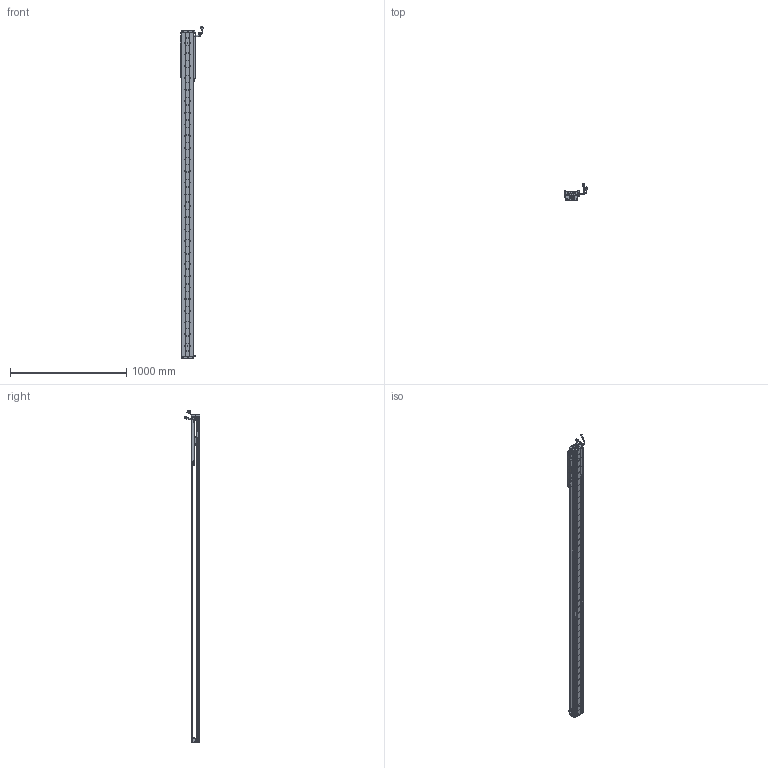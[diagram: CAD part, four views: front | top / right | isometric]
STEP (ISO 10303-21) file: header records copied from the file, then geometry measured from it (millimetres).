
FILE_DESCRIPTION (( 'STEP AP203' ), '1' );
FILE_NAME ('Z5-RY100D-1-L500-B-K.SLDASM_2350.step', '2021-05-17T03:34:52', ( '盈信电脑' ), ( '东莞市道滘镇水果街19号' ), 'SwSTEP 2.0', 'SolidWorks 2016', '' );
FILE_SCHEMA (( 'CONFIG_CONTROL_DESIGN' ));
Length unit declared in the file: millimetre
Products named in the file (36): Z-100詩湍傷裔啣; Z-RY100D詩湍奻揤裔; HARNESS-Part-1; HARNESS; SEAL-Part-1; LABEL-Part-1; SCREW-M1.6-2; 080黍杅芛假蚾釱21遴; COVER; 140蚥薯蝶輸; SCREW-M1.7-1; 榋妏寠巭燃_暯_M2_2; HOLDER0; SCREW-M1.7; SCREW-M1.6-1; SCALE; PBU_SHEET; Z5-RY100铝滑块（21款）; HARNESS-Part-2; 覜茼ん672; SEAL; Z-RY100D覜茼んえ; 100-Z-臏賑輸盄裔(21遴); SCREW-M1.6-3; LABEL; SCREW-M1.6; Z-RY100D詩湍狟揤裔; SHIELDPLATE; COVER-Part-1; 140雄赽晤鎢ん堤盄; Z5-RY100D-1-L500-B-K.SLDASM_2350; Z5-RY100-L500詩湍90mm遵_2350; SCALE-Part-1; Z5-RY100D-500-倰第菁釱_2350; PSLH080_PSLF2; SCALE-Part-2
Assembly tree (43 placements, depth 4):
  Z5-RY100D-1-L500-B-K.SLDASM_2350
    Z5-RY100D-500-倰第菁釱_2350
    Z5-RY100铝滑块（21款）
    PSLH080_PSLF2
      SCALE
        SCALE-Part-1
        SCALE-Part-2
      HARNESS
        HARNESS-Part-1
        HARNESS-Part-2
      LABEL
        LABEL-Part-1
      COVER
        COVER-Part-1
      SEAL
        SEAL-Part-1
      榋妏寠巭燃_暯_M2_2
      SHIELDPLATE
      SCREW-M1.7
      SCREW-M1.7-1
      PBU_SHEET
      SCREW-M1.6
      SCREW-M1.6-1
      SCREW-M1.6-2
      SCREW-M1.6-3
      HOLDER0
    080黍杅芛假蚾釱21遴
    Z-100詩湍傷裔啣  x2
    140蚥薯蝶輸  x2
    覜茼ん672  x3
    Z-RY100D覜茼んえ  x3
    100-Z-臏賑輸盄裔(21遴)
    140雄赽晤鎢ん堤盄
    Z5-RY100-L500詩湍90mm遵_2350
    Z-RY100D詩湍狟揤裔  x2
    Z-RY100D詩湍奻揤裔  x2
Bounding box: 205.79 x 136.11 x 2850.43 mm (x, y, z)
Volume: 5390885.1 mm3; surface area: 2090675.2 mm2
Topology: 38 solids, 38 shells, 3051 faces, 8347 edges, 5332 vertices
Faces by surface type: cylinder 1514, plane 1189, cone 226, torus 69, bspline 53
Entity records: 88729 total; most frequent: CARTESIAN_POINT 18555, DIRECTION 14337, ORIENTED_EDGE 13574, EDGE_CURVE 6787, AXIS2_PLACEMENT_3D 5402, VERTEX_POINT 4400, LINE 3533, VECTOR 3533
